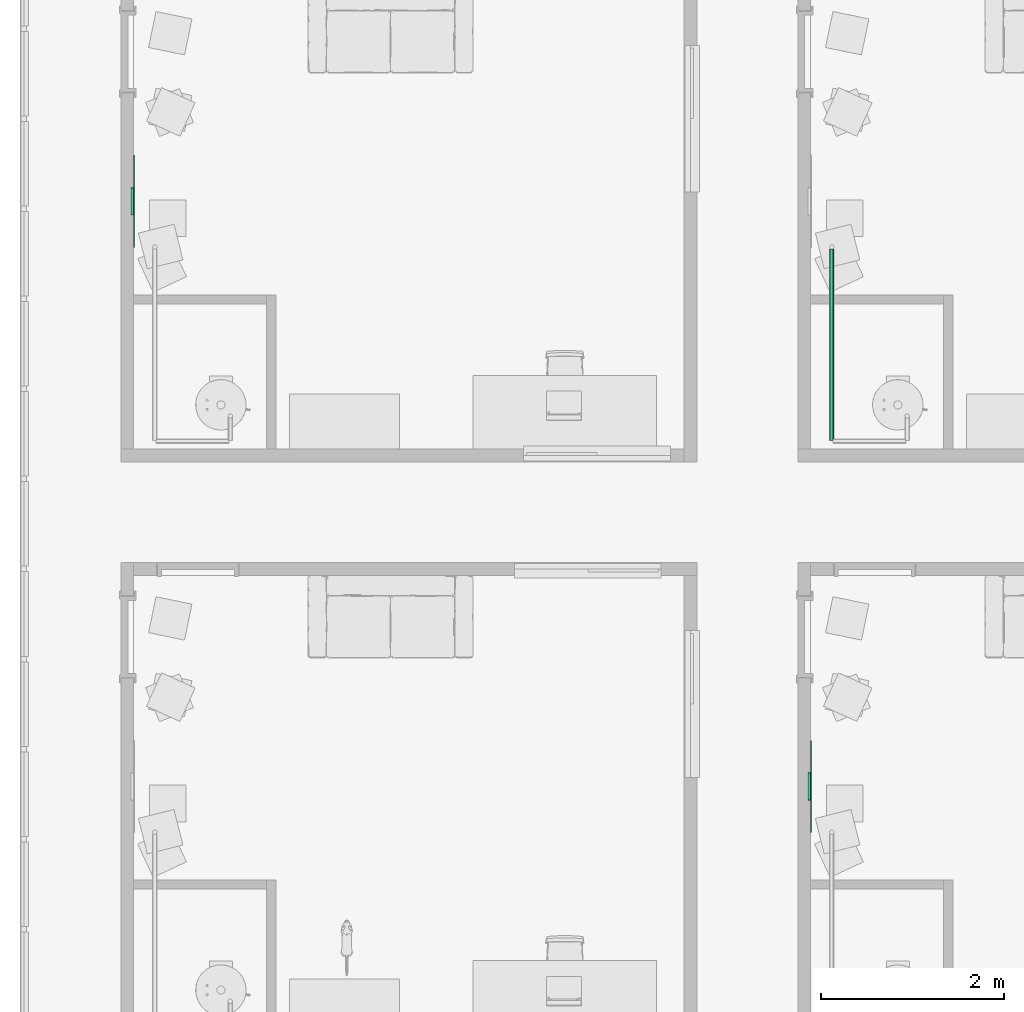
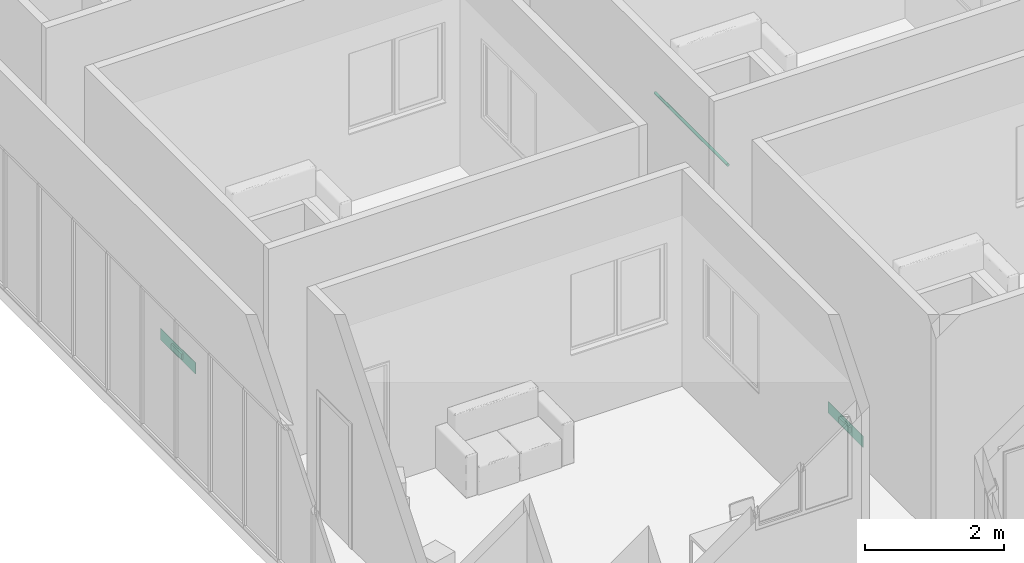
# One storey, part 18 of 71: 2 air terminals, 1 pipe segment.
"""IFC4 building model written with IfcOpenShell, lengths in centimetres."""

from ifc_helpers import new_model, entity, si_unit, converted_unit, derived_unit, direction, frame, origin, place, context, subcontext, project, spatial, arc, indexed_curve, outline, extrude, source, transform, mapped, material, constituent, constituent_set, type_object, type_shapes, element, save


model = new_model("IFC4")

# Units and contexts
model_context = context("Model", 3, precision=0.001, world=origin(), true_north=direction((6.123233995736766e-17, 1.0)))
body_context = subcontext(model_context, "Body", "Model", "MODEL_VIEW")
ifc_project = project(units=[si_unit("LENGTHUNIT", "METRE", prefix="CENTI"), si_unit("AREAUNIT", "SQUARE_METRE"), si_unit("VOLUMEUNIT", "CUBIC_METRE"), derived_unit("THERMALTRANSMITTANCEUNIT", [(si_unit("MASSUNIT", "GRAM", prefix="KILO"), 1), (si_unit("THERMODYNAMICTEMPERATUREUNIT", "KELVIN"), -1), (si_unit("TIMEUNIT", "SECOND"), -3)]), converted_unit("PLANEANGLEUNIT", "DEGREE", entity("IfcPlaneAngleMeasure", 0.017453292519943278), si_unit("PLANEANGLEUNIT", "RADIAN"), dimensions=[0, 0, 0, 0, 0, 0, 0]), derived_unit("MASSDENSITYUNIT", [(si_unit("MASSUNIT", "GRAM", prefix="KILO"), 1), (si_unit("LENGTHUNIT", "METRE"), -3)]), derived_unit("VAPORPERMEABILITYUNIT", [(si_unit("LENGTHUNIT", "METRE"), -1), (si_unit("TIMEUNIT", "SECOND"), 1)]), derived_unit("USERDEFINED", [(si_unit("MASSUNIT", "GRAM", prefix="KILO"), 1), (si_unit("TIMEUNIT", "SECOND"), -3), (si_unit("LENGTHUNIT", "METRE"), 3), (si_unit("ELECTRICCURRENTUNIT", "AMPERE"), -2)]), derived_unit("SPECIFICHEATCAPACITYUNIT", [(si_unit("THERMODYNAMICTEMPERATUREUNIT", "KELVIN"), -1), (si_unit("LENGTHUNIT", "METRE"), 2), (si_unit("TIMEUNIT", "SECOND"), -2)]), derived_unit("THERMALCONDUCTANCEUNIT", [(si_unit("MASSUNIT", "GRAM", prefix="KILO"), 1), (si_unit("THERMODYNAMICTEMPERATUREUNIT", "KELVIN"), -1), (si_unit("TIMEUNIT", "SECOND"), -3), (si_unit("LENGTHUNIT", "METRE"), 1)]), si_unit("PRESSUREUNIT", "PASCAL"), derived_unit("MODULUSOFELASTICITYUNIT", [(si_unit("MASSUNIT", "GRAM", prefix="KILO"), 1), (si_unit("LENGTHUNIT", "METRE"), -1), (si_unit("TIMEUNIT", "SECOND"), -2)]), derived_unit("THERMALEXPANSIONCOEFFICIENTUNIT", [(si_unit("THERMODYNAMICTEMPERATUREUNIT", "KELVIN"), -1)])], contexts=[model_context])

# Site, building, storey, space
site_placement = place(None, origin())
site = spatial("IfcSite", under=ifc_project, at=site_placement, Name="Default", CompositionType="ELEMENT")
building_placement = place(site_placement, origin())
building = spatial("IfcBuilding", under=site, at=building_placement, Name="IDS Escape Game Building", CompositionType="ELEMENT")
storey_placement = place(building_placement, frame((0.0, 0.0, 1200.0)))
storey = spatial("IfcBuildingStorey", under=building, at=storey_placement, Name="03_Third Floor", CompositionType="ELEMENT", Elevation=1200.0)
space_1_placement = place(storey_placement, origin())
space_1 = spatial("IfcSpace", under=storey, at=space_1_placement, Name="114", CompositionType="ELEMENT", PredefinedType="NOTDEFINED")

# Air terminal
ifc_material_1 = material(Name="TB_LVC_referentievlak_00_gen_BERSnl", Category="BE Default")
ifc_constituent_1 = constituent(ifc_material_1, Name="TB_LVC_referentievlak_00_gen_BERSnl", Category="BE Default", fraction=0.00014157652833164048)
ifc_material_2 = material(Name="ARC_FME.h2_staal_00_gen_BERSnl", Category="h - metaal")
ifc_constituent_2 = constituent(ifc_material_2, Name="ARC_FME.h2_staal_00_gen_BERSnl", Category="h - metaal", fraction=0.9998584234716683)
ifc_constituent_set_1 = constituent_set(constituents=[ifc_constituent_1, ifc_constituent_2])
ifc_constituent_3 = constituent(ifc_material_1, Name="BE Referentievlak", Category="BE Default", fraction=0.00014157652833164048)
ifc_constituent_4 = constituent(ifc_material_2, Name="Terminals", Category="h - metaal", fraction=0.9998584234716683)
ifc_constituent_set_2 = constituent_set(constituents=[ifc_constituent_3, ifc_constituent_4])
air_terminal_type = type_object("IfcAirTerminalType", Name="TB_57_AIR_FB_aanzuigrooster - 1 rechthoekige aansluiting - calculated flow_gen_BERSnl:Air Terminal - Exhaust", PredefinedType="GRILLE", material=ifc_constituent_set_2)
shared_shape = source(origin(), body_context, "Body", "SweptSolid", [
    extrude(outline(indexed_curve([(-0.5, -2.0290176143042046e-15), (6.8507733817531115e-16, -0.5000000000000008), (0.5, 2.0290176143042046e-15), (-5.361679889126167e-16, 0.49999999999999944)], segments=[arc(1, 2, 3), arc(3, 4, 1)], self_intersect=False)), frame((0.0, 0.0, 0.0), z_axis=(1.7453292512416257e-05, 0.0, 1.0), x_axis=(0.0, 1.0, 0.0)), (0.0, 0.0, 1.0), 0.09999999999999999),
    extrude(outline(indexed_curve([(-14.900000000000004, -4.9), (14.900000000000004, -4.9), (14.900000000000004, 4.9), (-14.900000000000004, 4.9), (-14.900000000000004, -4.9)], self_intersect=False)), frame((-4.886921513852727e-05, 0.0, -2.7999999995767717)), (0.0, 0.0, 1.0), 2.7999999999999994),
    extrude(outline(indexed_curve([(-50.0, -10.0), (50.0, -10.0), (50.0, 10.0), (-50.0, 10.0), (-50.0, -10.0)], self_intersect=False)), frame((0.0, 0.0, 0.0), z_axis=(0.0, 0.0, 1.0), x_axis=(-1.0, 0.0, 0.0)), (0.0, 0.0, 1.0), 0.6999999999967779),
])
type_shapes(air_terminal_type, [shared_shape])
air_terminal_1_placement = place(space_1_placement, frame((745.0, 921.0, 24.0), z_axis=(1.0, 0.0, 0.0), x_axis=(0.0, 1.0, 0.0)))
element("IfcAirTerminal", 1, at=air_terminal_1_placement, inside=space_1, type_object=air_terminal_type, material=ifc_constituent_set_1, Name="TB_57_AIR_FB_aanzuigrooster - 1 rechthoekige aansluiting - calculated flow_gen_BERSnl:Air Terminal - Exhaust", ObjectType="TB_57_AIR_FB_aanzuigrooster - 1 rechthoekige aansluiting - calculated flow_gen_BERSnl:Air Terminal - Exhaust", PredefinedType="GRILLE", context=body_context, shape_type="MappedRepresentation", body=[
    mapped(shared_shape, transform((0.0, 0.0, 0.0), scale=1.0)),
])

# Space
space_2_placement = place(storey_placement, origin())
space_2 = spatial("IfcSpace", under=storey, at=space_2_placement, Name="120", CompositionType="ELEMENT", PredefinedType="NOTDEFINED")

# Air terminal
ifc_constituent_5 = constituent(ifc_material_1, Name="TB_LVC_referentievlak_00_gen_BERSnl", Category="BE Default", fraction=0.00014157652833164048)
ifc_constituent_6 = constituent(ifc_material_2, Name="ARC_FME.h2_staal_00_gen_BERSnl", Category="h - metaal", fraction=0.9998584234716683)
ifc_constituent_set_3 = constituent_set(constituents=[ifc_constituent_5, ifc_constituent_6])
air_terminal_2_placement = place(space_2_placement, frame((7.0, 1559.0, 24.0), z_axis=(1.0, 0.0, 0.0), x_axis=(0.0, 1.0, 0.0)))
element("IfcAirTerminal", 2, at=air_terminal_2_placement, inside=space_2, type_object=air_terminal_type, material=ifc_constituent_set_3, Name="TB_57_AIR_FB_aanzuigrooster - 1 rechthoekige aansluiting - calculated flow_gen_BERSnl:Air Terminal - Exhaust", ObjectType="TB_57_AIR_FB_aanzuigrooster - 1 rechthoekige aansluiting - calculated flow_gen_BERSnl:Air Terminal - Exhaust", PredefinedType="GRILLE", context=body_context, shape_type="MappedRepresentation", body=[
    mapped(shared_shape, transform((0.0, 0.0, 0.0), scale=1.0)),
])

# Pipe segment
pipe_segment_type = type_object("IfcPipeSegmentType", Name="Pipe Types:Piping Aluminum", PredefinedType="NOTDEFINED")
pipe_segment_placement = place(storey_placement, origin())
element("IfcPipeSegment", 3, at=pipe_segment_placement, inside=storey, type_object=pipe_segment_type, Name="Pipe Types:Piping Aluminum", ObjectType="Pipe Types:Piping Aluminum", PredefinedType="NOTDEFINED", context=body_context, shape_type="SweptSolid", body=[
    extrude(outline(indexed_curve([(2.412999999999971, 0.0), (1.7062486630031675, 1.7062486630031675), (0.0, 2.412999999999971), (-1.7062486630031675, 1.7062486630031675), (-2.412999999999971, 0.0), (-1.7062486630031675, -1.7062486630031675), (0.0, -2.412999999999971), (1.7062486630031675, -1.7062486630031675)], segments=[arc(1, 2, 3), arc(3, 4, 5), arc(5, 6, 7), arc(7, 8, 1)], self_intersect=False)), frame((768.0467168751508, 1298.3648279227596, 242.0), z_axis=(0.0, 1.0, 0.0), x_axis=(1.0, 0.0, 0.0)), (0.0, 0.0, 1.0), 208.80000000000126),
])

save(model, "model.ifc")
